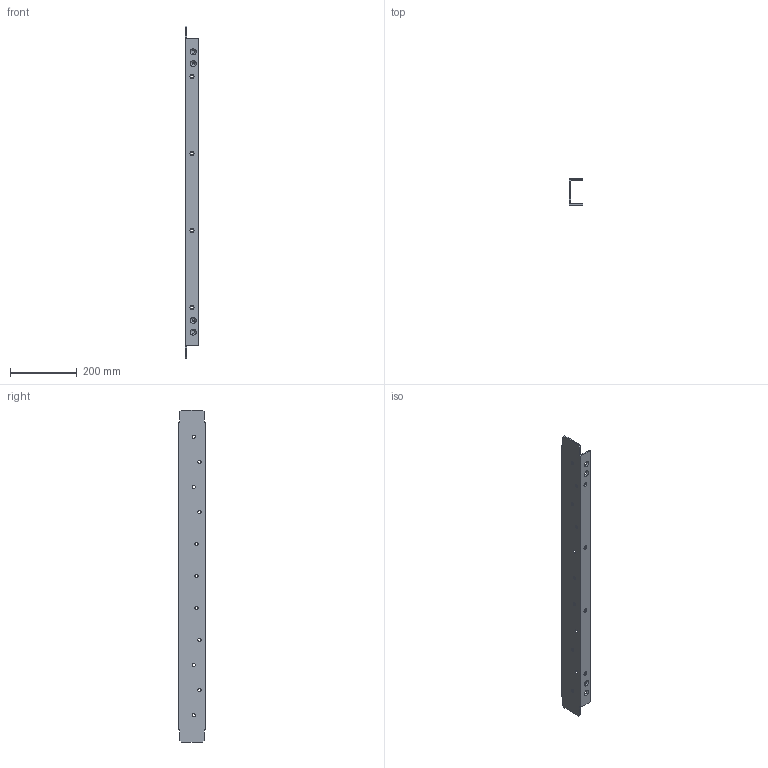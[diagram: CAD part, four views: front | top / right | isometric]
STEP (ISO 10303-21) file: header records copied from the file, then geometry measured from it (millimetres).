
FILE_DESCRIPTION (( 'STEP AP214' ), '1' );
FILE_NAME ('ÂØÀÅ.746222.004 Øâåëëåð.STEP', '2024-04-17T13:43:57', ( '' ), ( '' ), 'SwSTEP 2.0', 'SolidWorks 2019', '' );
FILE_SCHEMA (( 'AUTOMOTIVE_DESIGN' ));
Length unit declared in the file: millimetre
Products named in the file (1): ÂØÀÅ.746222.004 Øâåëëåð
Bounding box: 40 x 80 x 992 mm (x, y, z)
Volume: 576862.7 mm3; surface area: 293631.8 mm2
Topology: 1 solids, 1 shells, 94 faces, 268 edges, 172 vertices
Faces by surface type: cone 46, cylinder 26, plane 22
Entity records: 3246 total; most frequent: DIRECTION 590, ORIENTED_EDGE 536, CARTESIAN_POINT 535, EDGE_CURVE 268, AXIS2_PLACEMENT_3D 227, VERTEX_POINT 172, EDGE_LOOP 144, LINE 136
